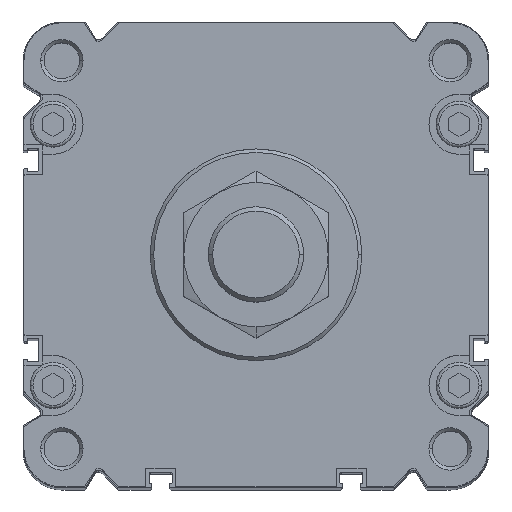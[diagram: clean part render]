
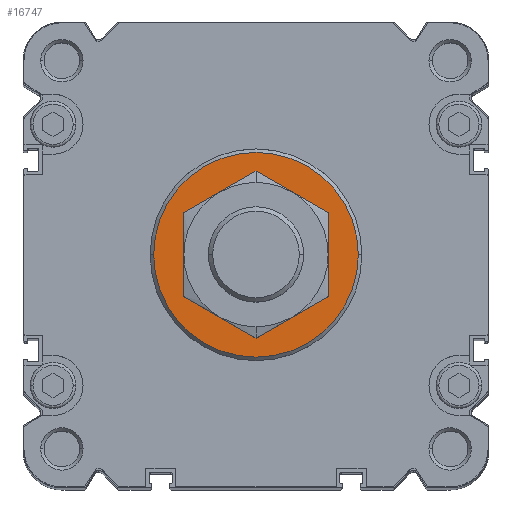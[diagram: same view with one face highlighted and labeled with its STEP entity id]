
A CAD part, top view. The second image highlights one B-rep face of the part: STEP entity #16747.
In plain terms, the highlighted planar face has unit normal (0, 0, 1).
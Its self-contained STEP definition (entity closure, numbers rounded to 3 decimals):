
#273 = EDGE_CURVE ( 'NONE', #11270, #7910, #971, .T. ) ;
#341 = ORIENTED_EDGE ( 'NONE', *, *, #273, .T. ) ;
#971 = CIRCLE ( 'NONE', #12848, 16. ) ;
#1017 = DIRECTION ( 'NONE',  ( 1., 0., 0. ) ) ;
#1146 = CARTESIAN_POINT ( 'NONE',  ( 0., -29., 4. ) ) ;
#2276 = CIRCLE ( 'NONE', #11163, 16. ) ;
#2626 = CARTESIAN_POINT ( 'NONE',  ( 0., 0., 4. ) ) ;
#5569 = CARTESIAN_POINT ( 'NONE',  ( -16., 0., 4. ) ) ;
#7383 = CIRCLE ( 'NONE', #10717, 29. ) ;
#7527 = CARTESIAN_POINT ( 'NONE',  ( 0., 0., 4. ) ) ;
#7564 = DIRECTION ( 'NONE',  ( 0., 0., -1. ) ) ;
#7785 = EDGE_LOOP ( 'NONE', ( #15273, #15901 ) ) ;
#7910 = VERTEX_POINT ( 'NONE', #5569 ) ;
#9132 = AXIS2_PLACEMENT_3D ( 'NONE', #15170, #16788, #18890 ) ;
#10311 = DIRECTION ( 'NONE',  ( 0., 0., 1. ) ) ;
#10343 = VERTEX_POINT ( 'NONE', #18664 ) ;
#10504 = CARTESIAN_POINT ( 'NONE',  ( 29., 0., 4. ) ) ;
#10717 = AXIS2_PLACEMENT_3D ( 'NONE', #7527, #11454, #1017 ) ;
#11163 = AXIS2_PLACEMENT_3D ( 'NONE', #2626, #11673, #20496 ) ;
#11265 = CARTESIAN_POINT ( 'NONE',  ( 0., 0., 4. ) ) ;
#11270 = VERTEX_POINT ( 'NONE', #12444 ) ;
#11454 = DIRECTION ( 'NONE',  ( 0., 0., -1. ) ) ;
#11673 = DIRECTION ( 'NONE',  ( 0., 0., -1. ) ) ;
#12367 = ORIENTED_EDGE ( 'NONE', *, *, #13507, .T. ) ;
#12444 = CARTESIAN_POINT ( 'NONE',  ( 16., 0., 4. ) ) ;
#12848 = AXIS2_PLACEMENT_3D ( 'NONE', #11265, #7564, #14643 ) ;
#13507 = EDGE_CURVE ( 'NONE', #7910, #11270, #2276, .T. ) ;
#14643 = DIRECTION ( 'NONE',  ( 1., 0., 0. ) ) ;
#15170 = CARTESIAN_POINT ( 'NONE',  ( 0., 0., 4. ) ) ;
#15273 = ORIENTED_EDGE ( 'NONE', *, *, #22730, .F. ) ;
#15438 = CIRCLE ( 'NONE', #9132, 29. ) ;
#15901 = ORIENTED_EDGE ( 'NONE', *, *, #16556, .F. ) ;
#16286 = AXIS2_PLACEMENT_3D ( 'NONE', #1146, #10311, #17387 ) ;
#16556 = EDGE_CURVE ( 'NONE', #10343, #18427, #7383, .T. ) ;
#16747 = ADVANCED_FACE ( 'NONE', ( #20641, #17038 ), #22617, .T. ) ;
#16788 = DIRECTION ( 'NONE',  ( 0., 0., -1. ) ) ;
#17038 = FACE_BOUND ( 'NONE', #18212, .T. ) ;
#17387 = DIRECTION ( 'NONE',  ( -1., 0., 0. ) ) ;
#18212 = EDGE_LOOP ( 'NONE', ( #341, #12367 ) ) ;
#18427 = VERTEX_POINT ( 'NONE', #10504 ) ;
#18664 = CARTESIAN_POINT ( 'NONE',  ( -29., 0., 4. ) ) ;
#18890 = DIRECTION ( 'NONE',  ( 1., 0., 0. ) ) ;
#20496 = DIRECTION ( 'NONE',  ( 1., 0., 0. ) ) ;
#20641 = FACE_OUTER_BOUND ( 'NONE', #7785, .T. ) ;
#22617 = PLANE ( 'NONE',  #16286 ) ;
#22730 = EDGE_CURVE ( 'NONE', #18427, #10343, #15438, .T. ) ;
